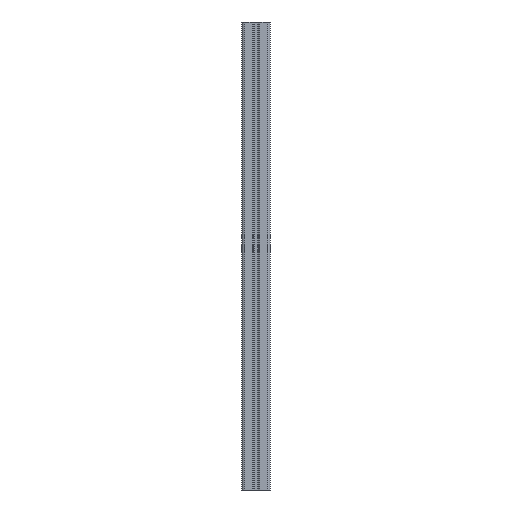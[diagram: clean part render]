
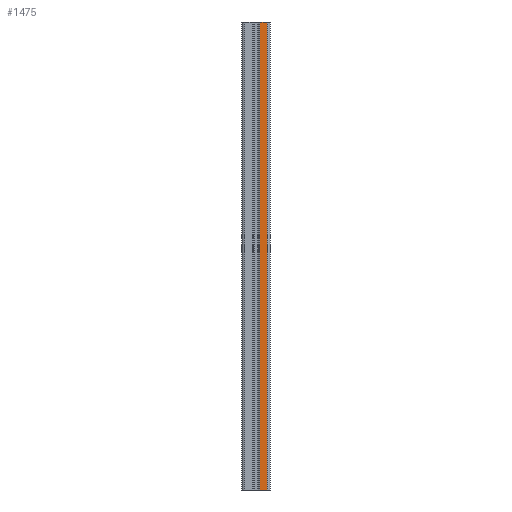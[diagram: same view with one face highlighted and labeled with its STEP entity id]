
A CAD part, front view. The second image highlights one B-rep face of the part: STEP entity #1475.
In plain terms, the highlighted planar face has unit normal (0, -1, 0).
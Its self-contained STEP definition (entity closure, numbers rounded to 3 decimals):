
#32 = VERTEX_POINT ( 'NONE', #813 ) ;
#52 = EDGE_CURVE ( 'NONE', #937, #32, #1563, .T. ) ;
#122 = ORIENTED_EDGE ( 'NONE', *, *, #52, .F. ) ;
#136 = VECTOR ( 'NONE', #2412, 1000. ) ;
#456 = PLANE ( 'NONE',  #1148 ) ;
#535 = VERTEX_POINT ( 'NONE', #1654 ) ;
#568 = CARTESIAN_POINT ( 'NONE',  ( -15., -15., 250. ) ) ;
#581 = ORIENTED_EDGE ( 'NONE', *, *, #879, .T. ) ;
#670 = CARTESIAN_POINT ( 'NONE',  ( 12., -15., -250. ) ) ;
#719 = VERTEX_POINT ( 'NONE', #1510 ) ;
#813 = CARTESIAN_POINT ( 'NONE',  ( 4.1, -15., 250. ) ) ;
#816 = LINE ( 'NONE', #670, #1299 ) ;
#837 = CARTESIAN_POINT ( 'NONE',  ( -15., -15., -250. ) ) ;
#879 = EDGE_CURVE ( 'NONE', #535, #719, #816, .T. ) ;
#937 = VERTEX_POINT ( 'NONE', #1303 ) ;
#1023 = DIRECTION ( 'NONE',  ( 1., 0., 0. ) ) ;
#1026 = ORIENTED_EDGE ( 'NONE', *, *, #2092, .F. ) ;
#1148 = AXIS2_PLACEMENT_3D ( 'NONE', #1902, #1325, #1023 ) ;
#1270 = DIRECTION ( 'NONE',  ( 0., 0., 1. ) ) ;
#1299 = VECTOR ( 'NONE', #1270, 1000. ) ;
#1303 = CARTESIAN_POINT ( 'NONE',  ( 4.1, -15., -250. ) ) ;
#1325 = DIRECTION ( 'NONE',  ( 0., -1., 0. ) ) ;
#1406 = LINE ( 'NONE', #837, #2212 ) ;
#1475 = ADVANCED_FACE ( 'NONE', ( #1956 ), #456, .T. ) ;
#1510 = CARTESIAN_POINT ( 'NONE',  ( 12., -15., 250. ) ) ;
#1563 = LINE ( 'NONE', #1838, #2090 ) ;
#1654 = CARTESIAN_POINT ( 'NONE',  ( 12., -15., -250. ) ) ;
#1675 = LINE ( 'NONE', #568, #136 ) ;
#1838 = CARTESIAN_POINT ( 'NONE',  ( 4.1, -15., -250. ) ) ;
#1902 = CARTESIAN_POINT ( 'NONE',  ( -15., -15., -292.426 ) ) ;
#1941 = EDGE_CURVE ( 'NONE', #535, #937, #1406, .T. ) ;
#1956 = FACE_OUTER_BOUND ( 'NONE', #2069, .T. ) ;
#1998 = ORIENTED_EDGE ( 'NONE', *, *, #1941, .F. ) ;
#2069 = EDGE_LOOP ( 'NONE', ( #1998, #581, #1026, #122 ) ) ;
#2070 = DIRECTION ( 'NONE',  ( 0., 0., 1. ) ) ;
#2090 = VECTOR ( 'NONE', #2070, 1000. ) ;
#2092 = EDGE_CURVE ( 'NONE', #32, #719, #1675, .T. ) ;
#2212 = VECTOR ( 'NONE', #2501, 1000. ) ;
#2412 = DIRECTION ( 'NONE',  ( 1., 0., 0. ) ) ;
#2501 = DIRECTION ( 'NONE',  ( -1., 0., 0. ) ) ;
